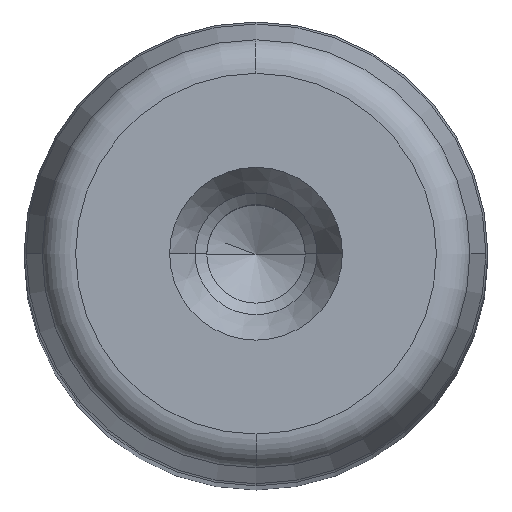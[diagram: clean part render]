
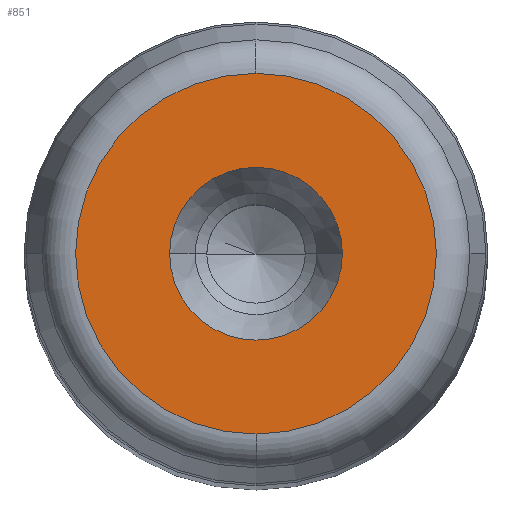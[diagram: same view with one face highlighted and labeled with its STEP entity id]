
A CAD part, top view. The second image highlights one B-rep face of the part: STEP entity #851.
In plain terms, the highlighted planar face has unit normal (0, 0, 1) as drawn and (0, 1, 0) by its records, which use the part's own axes.
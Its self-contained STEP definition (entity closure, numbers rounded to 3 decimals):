
#281=CARTESIAN_POINT('',(7.45,220.0,0.0));
#282=VERTEX_POINT('',#281);
#289=CARTESIAN_POINT('',(-7.45,220.0,0.));
#290=VERTEX_POINT('',#289);
#291=CARTESIAN_POINT('',(0.0,220.0,0.0));
#292=DIRECTION('',(0.0,1.0,0.0));
#293=DIRECTION('',(1.0,0.0,0.0));
#294=AXIS2_PLACEMENT_3D('',#291,#292,#293);
#295=CIRCLE('',#294,7.45);
#296=EDGE_CURVE('',#282,#290,#295,.T.);
#313=CARTESIAN_POINT('',(0.0,220.0,15.554));
#314=VERTEX_POINT('',#313);
#324=CARTESIAN_POINT('',(0.,220.0,-15.554));
#325=VERTEX_POINT('',#324);
#326=CARTESIAN_POINT('',(0.0,220.0,0.0));
#327=DIRECTION('',(0.0,1.0,0.0));
#328=DIRECTION('',(1.0,0.0,0.0));
#329=AXIS2_PLACEMENT_3D('',#326,#327,#328);
#330=CIRCLE('',#329,15.554);
#331=EDGE_CURVE('',#325,#314,#330,.T.);
#812=CARTESIAN_POINT('',(15.554,220.0,0.0));
#813=VERTEX_POINT('',#812);
#814=CARTESIAN_POINT('',(0.0,220.0,0.0));
#815=DIRECTION('',(0.0,1.0,0.0));
#816=DIRECTION('',(1.0,0.0,0.0));
#817=AXIS2_PLACEMENT_3D('',#814,#815,#816);
#818=CIRCLE('',#817,15.554);
#819=EDGE_CURVE('',#813,#325,#818,.T.);
#821=CARTESIAN_POINT('',(0.0,220.0,0.0));
#822=DIRECTION('',(0.0,1.0,0.0));
#823=DIRECTION('',(1.0,0.0,0.0));
#824=AXIS2_PLACEMENT_3D('',#821,#822,#823);
#825=CIRCLE('',#824,15.554);
#826=EDGE_CURVE('',#314,#813,#825,.T.);
#831=CARTESIAN_POINT('',(-17.11,220.0,-17.11));
#832=DIRECTION('',(0.0,1.0,0.0));
#833=DIRECTION('',(0.0,0.0,1.0));
#834=AXIS2_PLACEMENT_3D('',#831,#832,#833);
#835=PLANE('',#834);
#836=ORIENTED_EDGE('',*,*,#819,.T.);
#837=ORIENTED_EDGE('',*,*,#331,.T.);
#838=ORIENTED_EDGE('',*,*,#826,.T.);
#839=EDGE_LOOP('',(#836,#837,#838));
#840=FACE_OUTER_BOUND('',#839,.T.);
#841=ORIENTED_EDGE('',*,*,#296,.F.);
#842=CARTESIAN_POINT('',(0.0,220.0,0.0));
#843=DIRECTION('',(0.0,1.0,0.0));
#844=DIRECTION('',(1.0,0.0,0.0));
#845=AXIS2_PLACEMENT_3D('',#842,#843,#844);
#846=CIRCLE('',#845,7.45);
#847=EDGE_CURVE('',#290,#282,#846,.T.);
#848=ORIENTED_EDGE('',*,*,#847,.F.);
#849=EDGE_LOOP('',(#841,#848));
#850=FACE_BOUND('',#849,.T.);
#851=ADVANCED_FACE('',(#840,#850),#835,.T.);
